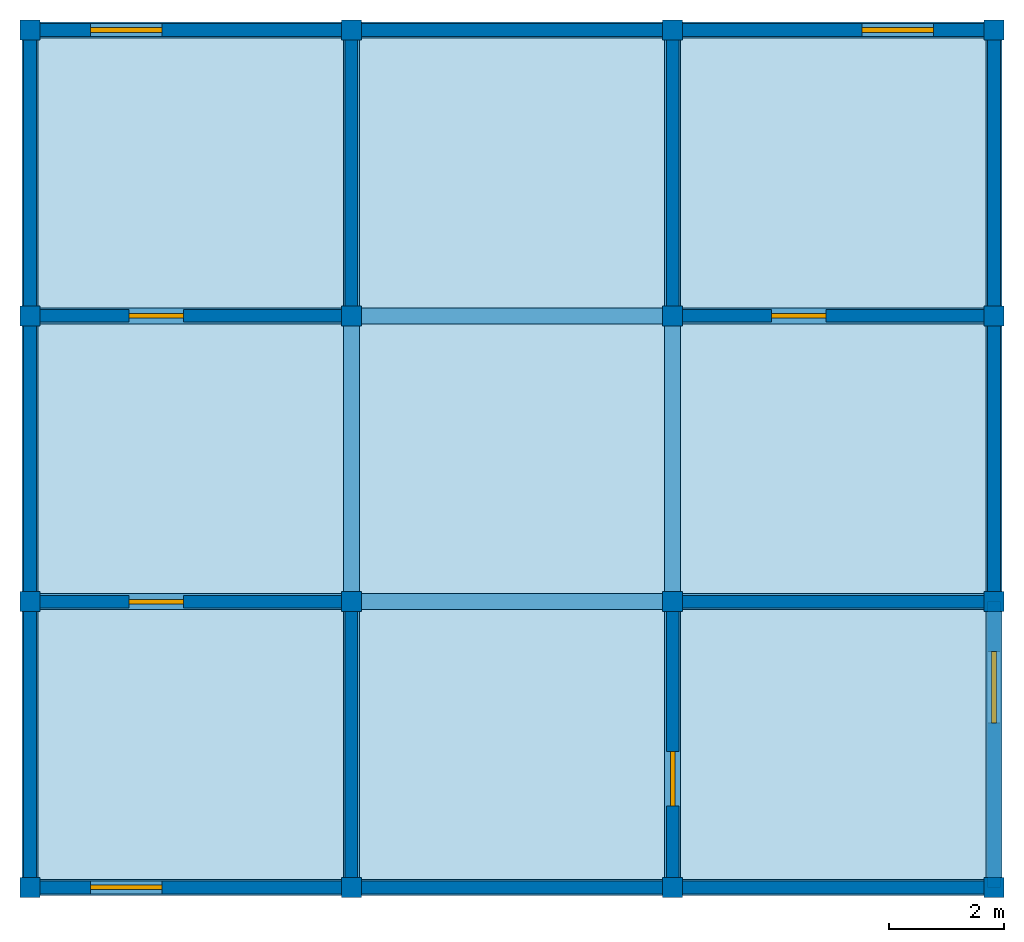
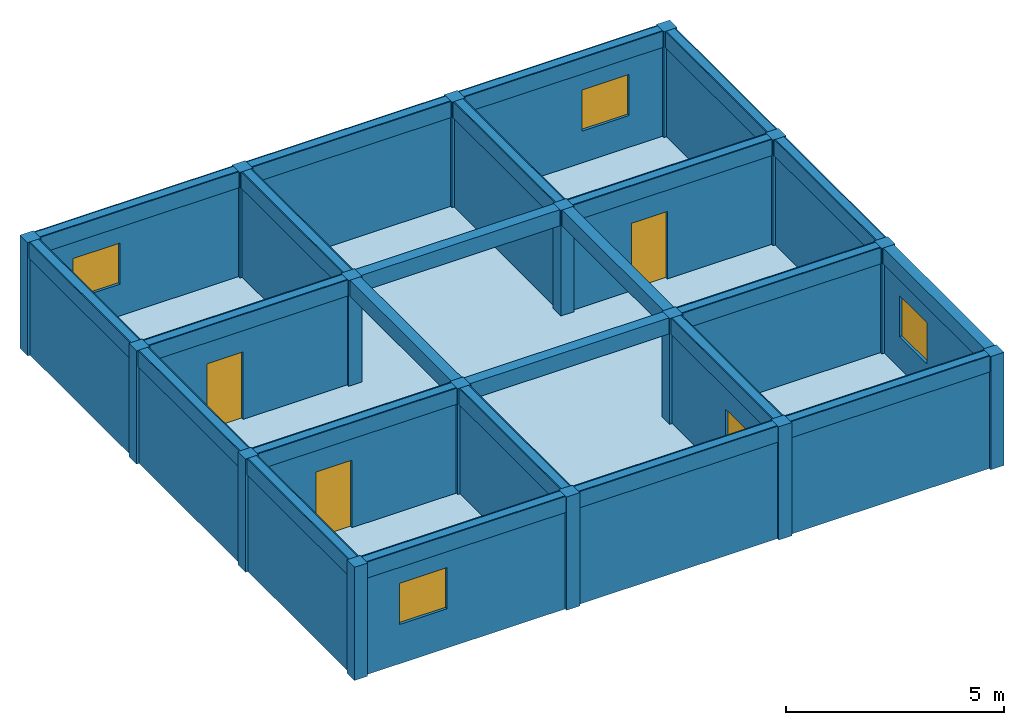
# One storey: 24 beams, 20 walls, 16 columns, 4 doors, 4 windows, 1 slab, 8 openings.
"""IFC4X3 building model written with IfcOpenShell, lengths in metres."""

from ifc_helpers import new_model, si_unit, frame, origin_with_axes, origin_2d, place, context, project, spatial, rectangle, extrude, material, element, fill, save


model = new_model("IFC4X3")

# Units and contexts
model_context = context("Model", 3, precision=1e-05, world=origin_with_axes())
ifc_project = project(units=[si_unit("LENGTHUNIT", "METRE"), si_unit("AREAUNIT", "SQUARE_METRE"), si_unit("VOLUMEUNIT", "CUBIC_METRE")], contexts=[model_context])

# Site, building, storey
site = spatial("IfcSite", under=ifc_project, Name="Puerto Montt Parcel", CompositionType="ELEMENT")
building = spatial("IfcBuilding", under=site, Name="Apex Hub", CompositionType="ELEMENT")
storey = spatial("IfcBuildingStorey", under=building, Name="Level 6", CompositionType="ELEMENT", Elevation=15.83)

# Columns
ifc_material_1 = material(Name="Timber")
column_1_placement = place(None, frame((-8.415, -7.485, 15.836), z_axis=(0.0, 0.0, 1.0), x_axis=(1.0, 0.0, 0.0)))
element("IfcColumn", 1, at=column_1_placement, inside=storey, material=ifc_material_1, Name="Column 6.1", ObjectType="Structural Column", PredefinedType="PILASTER", context=model_context, shape_type="SweptSolid", body=[
    extrude(rectangle(XDim=0.35, YDim=0.35, at=origin_2d()), origin_with_axes(), (0.0, 0.0, 1.0), 3.167),
])
column_2_placement = place(None, frame((-8.415, -2.495, 15.836), z_axis=(0.0, 0.0, 1.0), x_axis=(1.0, 0.0, 0.0)))
element("IfcColumn", 2, at=column_2_placement, inside=storey, material=ifc_material_1, Name="Column 6.2", ObjectType="Facade Column", PredefinedType="USERDEFINED", context=model_context, shape_type="SweptSolid", body=[
    extrude(rectangle(XDim=0.35, YDim=0.35, at=origin_2d()), origin_with_axes(), (0.0, 0.0, 1.0), 3.167),
])
column_3_placement = place(None, frame((-8.415, 2.495, 15.836), z_axis=(0.0, 0.0, 1.0), x_axis=(1.0, 0.0, 0.0)))
element("IfcColumn", 3, at=column_3_placement, inside=storey, material=ifc_material_1, Name="Column 6.3", ObjectType="Facade Column", PredefinedType="COLUMN", context=model_context, shape_type="SweptSolid", body=[
    extrude(rectangle(XDim=0.35, YDim=0.35, at=origin_2d()), origin_with_axes(), (0.0, 0.0, 1.0), 3.167),
])
column_4_placement = place(None, frame((-8.415, 7.485, 15.836), z_axis=(0.0, 0.0, 1.0), x_axis=(1.0, 0.0, 0.0)))
element("IfcColumn", 4, at=column_4_placement, inside=storey, material=ifc_material_1, Name="Column 6.4", ObjectType="Core Column", PredefinedType="NOTDEFINED", context=model_context, shape_type="SweptSolid", body=[
    extrude(rectangle(XDim=0.35, YDim=0.35, at=origin_2d()), origin_with_axes(), (0.0, 0.0, 1.0), 3.167),
])
column_5_placement = place(None, frame((-2.805, -7.485, 15.836), z_axis=(0.0, 0.0, 1.0), x_axis=(1.0, 0.0, 0.0)))
element("IfcColumn", 5, at=column_5_placement, inside=storey, material=ifc_material_1, Name="Column 6.5", ObjectType="Core Column", PredefinedType="PILASTER", context=model_context, shape_type="SweptSolid", body=[
    extrude(rectangle(XDim=0.35, YDim=0.35, at=origin_2d()), origin_with_axes(), (0.0, 0.0, 1.0), 3.167),
])
column_6_placement = place(None, frame((-2.805, -2.495, 15.836), z_axis=(0.0, 0.0, 1.0), x_axis=(1.0, 0.0, 0.0)))
element("IfcColumn", 6, at=column_6_placement, inside=storey, material=ifc_material_1, Name="Column 6.6", ObjectType="Structural Column", PredefinedType="PILASTER", context=model_context, shape_type="SweptSolid", body=[
    extrude(rectangle(XDim=0.35, YDim=0.35, at=origin_2d()), origin_with_axes(), (0.0, 0.0, 1.0), 3.167),
])
column_7_placement = place(None, frame((-2.805, 2.495, 15.836), z_axis=(0.0, 0.0, 1.0), x_axis=(1.0, 0.0, 0.0)))
element("IfcColumn", 7, at=column_7_placement, inside=storey, material=ifc_material_1, Name="Column 6.7", ObjectType="Structural Column", PredefinedType="NOTDEFINED", context=model_context, shape_type="SweptSolid", body=[
    extrude(rectangle(XDim=0.35, YDim=0.35, at=origin_2d()), origin_with_axes(), (0.0, 0.0, 1.0), 3.167),
])
column_8_placement = place(None, frame((-2.805, 7.485, 15.836), z_axis=(0.0, 0.0, 1.0), x_axis=(1.0, 0.0, 0.0)))
element("IfcColumn", 8, at=column_8_placement, inside=storey, material=ifc_material_1, Name="Column 6.8", ObjectType="Facade Column", PredefinedType="PILASTER", context=model_context, shape_type="SweptSolid", body=[
    extrude(rectangle(XDim=0.35, YDim=0.35, at=origin_2d()), origin_with_axes(), (0.0, 0.0, 1.0), 3.167),
])
column_9_placement = place(None, frame((2.805, -7.485, 15.836), z_axis=(0.0, 0.0, 1.0), x_axis=(1.0, 0.0, 0.0)))
element("IfcColumn", 9, at=column_9_placement, inside=storey, material=ifc_material_1, Name="Column 6.9", ObjectType="Structural Column", PredefinedType="PILASTER", context=model_context, shape_type="SweptSolid", body=[
    extrude(rectangle(XDim=0.35, YDim=0.35, at=origin_2d()), origin_with_axes(), (0.0, 0.0, 1.0), 3.167),
])
column_10_placement = place(None, frame((2.805, -2.495, 15.836), z_axis=(0.0, 0.0, 1.0), x_axis=(1.0, 0.0, 0.0)))
element("IfcColumn", 10, at=column_10_placement, inside=storey, material=ifc_material_1, Name="Column 6.10", ObjectType="Structural Column", PredefinedType="COLUMN", context=model_context, shape_type="SweptSolid", body=[
    extrude(rectangle(XDim=0.35, YDim=0.35, at=origin_2d()), origin_with_axes(), (0.0, 0.0, 1.0), 3.167),
])
column_11_placement = place(None, frame((2.805, 2.495, 15.836), z_axis=(0.0, 0.0, 1.0), x_axis=(1.0, 0.0, 0.0)))
element("IfcColumn", 11, at=column_11_placement, inside=storey, material=ifc_material_1, Name="Column 6.11", ObjectType="Facade Column", PredefinedType="USERDEFINED", context=model_context, shape_type="SweptSolid", body=[
    extrude(rectangle(XDim=0.35, YDim=0.35, at=origin_2d()), origin_with_axes(), (0.0, 0.0, 1.0), 3.167),
])
column_12_placement = place(None, frame((2.805, 7.485, 15.836), z_axis=(0.0, 0.0, 1.0), x_axis=(1.0, 0.0, 0.0)))
element("IfcColumn", 12, at=column_12_placement, inside=storey, material=ifc_material_1, Name="Column 6.12", ObjectType="Structural Column", PredefinedType="COLUMN", context=model_context, shape_type="SweptSolid", body=[
    extrude(rectangle(XDim=0.35, YDim=0.35, at=origin_2d()), origin_with_axes(), (0.0, 0.0, 1.0), 3.167),
])
column_13_placement = place(None, frame((8.415, -7.485, 15.836), z_axis=(0.0, 0.0, 1.0), x_axis=(1.0, 0.0, 0.0)))
element("IfcColumn", 13, at=column_13_placement, inside=storey, material=ifc_material_1, Name="Column 6.13", ObjectType="Facade Column", PredefinedType="PILASTER", context=model_context, shape_type="SweptSolid", body=[
    extrude(rectangle(XDim=0.35, YDim=0.35, at=origin_2d()), origin_with_axes(), (0.0, 0.0, 1.0), 3.167),
])
column_14_placement = place(None, frame((8.415, -2.495, 15.836), z_axis=(0.0, 0.0, 1.0), x_axis=(1.0, 0.0, 0.0)))
element("IfcColumn", 14, at=column_14_placement, inside=storey, material=ifc_material_1, Name="Column 6.14", ObjectType="Corner Column", PredefinedType="PILASTER", context=model_context, shape_type="SweptSolid", body=[
    extrude(rectangle(XDim=0.35, YDim=0.35, at=origin_2d()), origin_with_axes(), (0.0, 0.0, 1.0), 3.167),
])
column_15_placement = place(None, frame((8.415, 2.495, 15.836), z_axis=(0.0, 0.0, 1.0), x_axis=(1.0, 0.0, 0.0)))
element("IfcColumn", 15, at=column_15_placement, inside=storey, material=ifc_material_1, Name="Column 6.15", ObjectType="Structural Column", PredefinedType="NOTDEFINED", context=model_context, shape_type="SweptSolid", body=[
    extrude(rectangle(XDim=0.35, YDim=0.35, at=origin_2d()), origin_with_axes(), (0.0, 0.0, 1.0), 3.167),
])
column_16_placement = place(None, frame((8.415, 7.485, 15.836), z_axis=(0.0, 0.0, 1.0), x_axis=(1.0, 0.0, 0.0)))
element("IfcColumn", 16, at=column_16_placement, inside=storey, material=ifc_material_1, Name="Column 6.16", ObjectType="Core Column", PredefinedType="PILASTER", context=model_context, shape_type="SweptSolid", body=[
    extrude(rectangle(XDim=0.35, YDim=0.35, at=origin_2d()), origin_with_axes(), (0.0, 0.0, 1.0), 3.167),
])

# Beams
ifc_material_2 = material(Name="Concrete")
beam_1_placement = place(None, frame((-5.61, -7.485, 18.553), z_axis=(0.0, 0.0, 1.0), x_axis=(1.0, 0.0, 0.0)))
element("IfcBeam", 17, at=beam_1_placement, inside=storey, material=ifc_material_2, Name="Beam 6.1", ObjectType="Primary Beam", PredefinedType="T_BEAM", context=model_context, shape_type="SweptSolid", body=[
    extrude(rectangle(XDim=5.61, YDim=0.28, at=origin_2d()), origin_with_axes(), (0.0, 0.0, 1.0), 0.45),
])
beam_2_placement = place(None, frame((0.0, -7.485, 18.553), z_axis=(0.0, 0.0, 1.0), x_axis=(1.0, 0.0, 0.0)))
element("IfcBeam", 18, at=beam_2_placement, inside=storey, material=ifc_material_2, Name="Beam 6.2", ObjectType="Transfer Beam", PredefinedType="LINTEL", context=model_context, shape_type="SweptSolid", body=[
    extrude(rectangle(XDim=5.61, YDim=0.28, at=origin_2d()), origin_with_axes(), (0.0, 0.0, 1.0), 0.45),
])
beam_3_placement = place(None, frame((5.61, -7.485, 18.553), z_axis=(0.0, 0.0, 1.0), x_axis=(1.0, 0.0, 0.0)))
element("IfcBeam", 19, at=beam_3_placement, inside=storey, material=ifc_material_2, Name="Beam 6.3", ObjectType="Ridge Beam", PredefinedType="JOIST", context=model_context, shape_type="SweptSolid", body=[
    extrude(rectangle(XDim=5.61, YDim=0.28, at=origin_2d()), origin_with_axes(), (0.0, 0.0, 1.0), 0.45),
])
beam_4_placement = place(None, frame((-5.61, -2.495, 18.553), z_axis=(0.0, 0.0, 1.0), x_axis=(1.0, 0.0, 0.0)))
element("IfcBeam", 20, at=beam_4_placement, inside=storey, material=ifc_material_2, Name="Beam 6.4", ObjectType="Secondary Beam", PredefinedType="NOTDEFINED", context=model_context, shape_type="SweptSolid", body=[
    extrude(rectangle(XDim=5.61, YDim=0.28, at=origin_2d()), origin_with_axes(), (0.0, 0.0, 1.0), 0.45),
])
beam_5_placement = place(None, frame((0.0, -2.495, 18.553), z_axis=(0.0, 0.0, 1.0), x_axis=(1.0, 0.0, 0.0)))
element("IfcBeam", 21, at=beam_5_placement, inside=storey, material=ifc_material_2, Name="Beam 6.5", ObjectType="Transfer Beam", PredefinedType="NOTDEFINED", context=model_context, shape_type="SweptSolid", body=[
    extrude(rectangle(XDim=5.61, YDim=0.28, at=origin_2d()), origin_with_axes(), (0.0, 0.0, 1.0), 0.45),
])
beam_6_placement = place(None, frame((5.61, -2.495, 18.553), z_axis=(0.0, 0.0, 1.0), x_axis=(1.0, 0.0, 0.0)))
element("IfcBeam", 22, at=beam_6_placement, inside=storey, material=ifc_material_2, Name="Beam 6.6", ObjectType="Primary Beam", PredefinedType="SPANDREL", context=model_context, shape_type="SweptSolid", body=[
    extrude(rectangle(XDim=5.61, YDim=0.28, at=origin_2d()), origin_with_axes(), (0.0, 0.0, 1.0), 0.45),
])
beam_7_placement = place(None, frame((-5.61, 2.495, 18.553), z_axis=(0.0, 0.0, 1.0), x_axis=(1.0, 0.0, 0.0)))
element("IfcBeam", 23, at=beam_7_placement, inside=storey, material=ifc_material_2, Name="Beam 6.7", ObjectType="Ridge Beam", PredefinedType="HOLLOWCORE", context=model_context, shape_type="SweptSolid", body=[
    extrude(rectangle(XDim=5.61, YDim=0.28, at=origin_2d()), origin_with_axes(), (0.0, 0.0, 1.0), 0.45),
])
beam_8_placement = place(None, frame((0.0, 2.495, 18.553), z_axis=(0.0, 0.0, 1.0), x_axis=(1.0, 0.0, 0.0)))
element("IfcBeam", 24, at=beam_8_placement, inside=storey, material=ifc_material_2, Name="Beam 6.8", ObjectType="Secondary Beam", PredefinedType="BEAM", context=model_context, shape_type="SweptSolid", body=[
    extrude(rectangle(XDim=5.61, YDim=0.28, at=origin_2d()), origin_with_axes(), (0.0, 0.0, 1.0), 0.45),
])
beam_9_placement = place(None, frame((5.61, 2.495, 18.553), z_axis=(0.0, 0.0, 1.0), x_axis=(1.0, 0.0, 0.0)))
element("IfcBeam", 25, at=beam_9_placement, inside=storey, material=ifc_material_2, Name="Beam 6.9", ObjectType="Ridge Beam", PredefinedType="SPANDREL", context=model_context, shape_type="SweptSolid", body=[
    extrude(rectangle(XDim=5.61, YDim=0.28, at=origin_2d()), origin_with_axes(), (0.0, 0.0, 1.0), 0.45),
])
beam_10_placement = place(None, frame((-5.61, 7.485, 18.553), z_axis=(0.0, 0.0, 1.0), x_axis=(1.0, 0.0, 0.0)))
element("IfcBeam", 26, at=beam_10_placement, inside=storey, material=ifc_material_2, Name="Beam 6.10", ObjectType="Secondary Beam", PredefinedType="LINTEL", context=model_context, shape_type="SweptSolid", body=[
    extrude(rectangle(XDim=5.61, YDim=0.28, at=origin_2d()), origin_with_axes(), (0.0, 0.0, 1.0), 0.45),
])
beam_11_placement = place(None, frame((0.0, 7.485, 18.553), z_axis=(0.0, 0.0, 1.0), x_axis=(1.0, 0.0, 0.0)))
element("IfcBeam", 27, at=beam_11_placement, inside=storey, material=ifc_material_2, Name="Beam 6.11", ObjectType="Secondary Beam", PredefinedType="NOTDEFINED", context=model_context, shape_type="SweptSolid", body=[
    extrude(rectangle(XDim=5.61, YDim=0.28, at=origin_2d()), origin_with_axes(), (0.0, 0.0, 1.0), 0.45),
])
beam_12_placement = place(None, frame((5.61, 7.485, 18.553), z_axis=(0.0, 0.0, 1.0), x_axis=(1.0, 0.0, 0.0)))
element("IfcBeam", 28, at=beam_12_placement, inside=storey, material=ifc_material_2, Name="Beam 6.12", ObjectType="Primary Beam", PredefinedType="NOTDEFINED", context=model_context, shape_type="SweptSolid", body=[
    extrude(rectangle(XDim=5.61, YDim=0.28, at=origin_2d()), origin_with_axes(), (0.0, 0.0, 1.0), 0.45),
])
beam_13_placement = place(None, frame((-8.415, -4.99, 18.553), z_axis=(0.0, 0.0, 1.0), x_axis=(0.0, 1.0, 0.0)))
element("IfcBeam", 29, at=beam_13_placement, inside=storey, material=ifc_material_2, Name="Beam 6.13", ObjectType="Secondary Beam", PredefinedType="NOTDEFINED", context=model_context, shape_type="SweptSolid", body=[
    extrude(rectangle(XDim=4.99, YDim=0.28, at=origin_2d()), origin_with_axes(), (0.0, 0.0, 1.0), 0.45),
])
beam_14_placement = place(None, frame((-8.415, 0.0, 18.553), z_axis=(0.0, 0.0, 1.0), x_axis=(0.0, 1.0, 0.0)))
element("IfcBeam", 30, at=beam_14_placement, inside=storey, material=ifc_material_2, Name="Beam 6.14", ObjectType="Ridge Beam", PredefinedType="SPANDREL", context=model_context, shape_type="SweptSolid", body=[
    extrude(rectangle(XDim=4.99, YDim=0.28, at=origin_2d()), origin_with_axes(), (0.0, 0.0, 1.0), 0.45),
])
beam_15_placement = place(None, frame((-8.415, 4.99, 18.553), z_axis=(0.0, 0.0, 1.0), x_axis=(0.0, 1.0, 0.0)))
element("IfcBeam", 31, at=beam_15_placement, inside=storey, material=ifc_material_2, Name="Beam 6.15", ObjectType="Primary Beam", PredefinedType="USERDEFINED", context=model_context, shape_type="SweptSolid", body=[
    extrude(rectangle(XDim=4.99, YDim=0.28, at=origin_2d()), origin_with_axes(), (0.0, 0.0, 1.0), 0.45),
])
beam_16_placement = place(None, frame((-2.805, -4.99, 18.553), z_axis=(0.0, 0.0, 1.0), x_axis=(0.0, 1.0, 0.0)))
element("IfcBeam", 32, at=beam_16_placement, inside=storey, material=ifc_material_2, Name="Beam 6.16", ObjectType="Primary Beam", PredefinedType="LINTEL", context=model_context, shape_type="SweptSolid", body=[
    extrude(rectangle(XDim=4.99, YDim=0.28, at=origin_2d()), origin_with_axes(), (0.0, 0.0, 1.0), 0.45),
])
beam_17_placement = place(None, frame((-2.805, 0.0, 18.553), z_axis=(0.0, 0.0, 1.0), x_axis=(0.0, 1.0, 0.0)))
element("IfcBeam", 33, at=beam_17_placement, inside=storey, material=ifc_material_2, Name="Beam 6.17", ObjectType="Ridge Beam", PredefinedType="BEAM", context=model_context, shape_type="SweptSolid", body=[
    extrude(rectangle(XDim=4.99, YDim=0.28, at=origin_2d()), origin_with_axes(), (0.0, 0.0, 1.0), 0.45),
])
beam_18_placement = place(None, frame((-2.805, 4.99, 18.553), z_axis=(0.0, 0.0, 1.0), x_axis=(0.0, 1.0, 0.0)))
element("IfcBeam", 34, at=beam_18_placement, inside=storey, material=ifc_material_2, Name="Beam 6.18", ObjectType="Primary Beam", PredefinedType="NOTDEFINED", context=model_context, shape_type="SweptSolid", body=[
    extrude(rectangle(XDim=4.99, YDim=0.28, at=origin_2d()), origin_with_axes(), (0.0, 0.0, 1.0), 0.45),
])
beam_19_placement = place(None, frame((2.805, -4.99, 18.553), z_axis=(0.0, 0.0, 1.0), x_axis=(0.0, 1.0, 0.0)))
element("IfcBeam", 35, at=beam_19_placement, inside=storey, material=ifc_material_2, Name="Beam 6.19", ObjectType="Rafter Beam", PredefinedType="SPANDREL", context=model_context, shape_type="SweptSolid", body=[
    extrude(rectangle(XDim=4.99, YDim=0.28, at=origin_2d()), origin_with_axes(), (0.0, 0.0, 1.0), 0.45),
])
beam_20_placement = place(None, frame((2.805, 0.0, 18.553), z_axis=(0.0, 0.0, 1.0), x_axis=(0.0, 1.0, 0.0)))
element("IfcBeam", 36, at=beam_20_placement, inside=storey, material=ifc_material_2, Name="Beam 6.20", ObjectType="Ridge Beam", PredefinedType="T_BEAM", context=model_context, shape_type="SweptSolid", body=[
    extrude(rectangle(XDim=4.99, YDim=0.28, at=origin_2d()), origin_with_axes(), (0.0, 0.0, 1.0), 0.45),
])
beam_21_placement = place(None, frame((2.805, 4.99, 18.553), z_axis=(0.0, 0.0, 1.0), x_axis=(0.0, 1.0, 0.0)))
element("IfcBeam", 37, at=beam_21_placement, inside=storey, material=ifc_material_2, Name="Beam 6.21", ObjectType="Secondary Beam", PredefinedType="NOTDEFINED", context=model_context, shape_type="SweptSolid", body=[
    extrude(rectangle(XDim=4.99, YDim=0.28, at=origin_2d()), origin_with_axes(), (0.0, 0.0, 1.0), 0.45),
])
beam_22_placement = place(None, frame((8.415, -4.99, 18.553), z_axis=(0.0, 0.0, 1.0), x_axis=(0.0, 1.0, 0.0)))
element("IfcBeam", 38, at=beam_22_placement, inside=storey, material=ifc_material_2, Name="Beam 6.22", ObjectType="Ridge Beam", PredefinedType="JOIST", context=model_context, shape_type="SweptSolid", body=[
    extrude(rectangle(XDim=4.99, YDim=0.28, at=origin_2d()), origin_with_axes(), (0.0, 0.0, 1.0), 0.45),
])
beam_23_placement = place(None, frame((8.415, 0.0, 18.553), z_axis=(0.0, 0.0, 1.0), x_axis=(0.0, 1.0, 0.0)))
element("IfcBeam", 39, at=beam_23_placement, inside=storey, material=ifc_material_2, Name="Beam 6.23", ObjectType="Secondary Beam", PredefinedType="T_BEAM", context=model_context, shape_type="SweptSolid", body=[
    extrude(rectangle(XDim=4.99, YDim=0.28, at=origin_2d()), origin_with_axes(), (0.0, 0.0, 1.0), 0.45),
])
beam_24_placement = place(None, frame((8.415, 4.99, 18.553), z_axis=(0.0, 0.0, 1.0), x_axis=(0.0, 1.0, 0.0)))
element("IfcBeam", 40, at=beam_24_placement, inside=storey, material=ifc_material_2, Name="Beam 6.24", ObjectType="Transfer Beam", PredefinedType="LINTEL", context=model_context, shape_type="SweptSolid", body=[
    extrude(rectangle(XDim=4.99, YDim=0.28, at=origin_2d()), origin_with_axes(), (0.0, 0.0, 1.0), 0.45),
])

# Slab
slab_placement = place(None, frame((0.0, 0.0, 15.83), z_axis=(0.0, 0.0, 1.0), x_axis=(1.0, 0.0, 0.0)))
element("IfcSlab", 41, at=slab_placement, inside=storey, material=ifc_material_1, Name="Slab 6", ObjectType="Floor Slab", PredefinedType="FLOOR", context=model_context, shape_type="SweptSolid", body=[
    extrude(rectangle(XDim=16.83, YDim=14.97, at=origin_2d()), origin_with_axes(), (0.0, 0.0, 1.0), 0.22),
])

# Wall, opening, door
ifc_material_3 = material(Name="Brick")
wall_1_placement = place(None, frame((-5.61, -2.495, 15.836), z_axis=(0.0, 0.0, 1.0), x_axis=(1.0, 0.0, 0.0)))
wall_1 = element("IfcWall", 42, at=wall_1_placement, inside=storey, material=ifc_material_3, Name="Wall 6.1", ObjectType="Corridor Partition", PredefinedType="STANDARD", context=model_context, shape_type="SweptSolid", body=[
    extrude(rectangle(XDim=5.61, YDim=0.222052, at=origin_2d()), origin_with_axes(), (0.0, 0.0, 1.0), 3.167),
])
opening_1_placement = place(None, frame((-6.21, -2.495, 15.836), z_axis=(0.0, 0.0, 1.0), x_axis=(1.0, 0.0, 0.0)))
opening_1 = element("IfcOpeningElement", 43, at=opening_1_placement, cuts=wall_1, Name="Door opening 6.1", ObjectType="Door Opening", PredefinedType="OPENING", context=model_context, shape_type="SweptSolid", body=[
    extrude(rectangle(XDim=0.95, YDim=0.302052, at=origin_2d()), origin_with_axes(), (0.0, 0.0, 1.0), 2.1),
])
door_1_placement = place(None, frame((-6.21, -2.495, 15.836), z_axis=(0.0, 0.0, 1.0), x_axis=(1.0, 0.0, 0.0)))
door_1 = element("IfcDoor", 44, at=door_1_placement, inside=storey, Name="Door 6.1", ObjectType="Entry Door", OverallHeight=2.1, OverallWidth=0.95, context=model_context, shape_type="SweptSolid", body=[
    extrude(rectangle(XDim=0.95, YDim=0.08, at=origin_2d()), origin_with_axes(), (0.0, 0.0, 1.0), 2.1),
])
fill(opening_1, door_1)

# Wall
wall_2_placement = place(None, frame((-2.805, -4.99, 15.836), z_axis=(0.0, 0.0, 1.0), x_axis=(0.0, 1.0, 0.0)))
element("IfcWall", 45, at=wall_2_placement, inside=storey, material=ifc_material_3, Name="Wall 6.2", ObjectType="Corridor Partition", PredefinedType="MOVABLE", context=model_context, shape_type="SweptSolid", body=[
    extrude(rectangle(XDim=4.99, YDim=0.222052, at=origin_2d()), origin_with_axes(), (0.0, 0.0, 1.0), 3.167),
])

# Wall, opening, window
ifc_material_4 = material(Name="CLT")
wall_3_placement = place(None, frame((-5.61, -7.485, 15.836), z_axis=(0.0, 0.0, 1.0), x_axis=(1.0, 0.0, 0.0)))
wall_3 = element("IfcWall", 46, at=wall_3_placement, inside=storey, material=ifc_material_4, Name="Wall 6.3", ObjectType="Exterior Wall", PredefinedType="STANDARD", context=model_context, shape_type="SweptSolid", body=[
    extrude(rectangle(XDim=5.61, YDim=0.222052, at=origin_2d()), origin_with_axes(), (0.0, 0.0, 1.0), 3.167),
])
opening_2_placement = place(None, frame((-6.732, -7.485, 16.936), z_axis=(0.0, 0.0, 1.0), x_axis=(1.0, 0.0, 0.0)))
opening_2 = element("IfcOpeningElement", 47, at=opening_2_placement, cuts=wall_3, Name="Window opening 6.2", ObjectType="Window Opening", PredefinedType="OPENING", context=model_context, shape_type="SweptSolid", body=[
    extrude(rectangle(XDim=1.25, YDim=0.302052, at=origin_2d()), origin_with_axes(), (0.0, 0.0, 1.0), 1.15),
])
window_1_placement = place(None, frame((-6.732, -7.485, 16.936), z_axis=(0.0, 0.0, 1.0), x_axis=(1.0, 0.0, 0.0)))
window_1 = element("IfcWindow", 48, at=window_1_placement, inside=storey, Name="Window 6.2", ObjectType="Operable Window", OverallHeight=1.15, OverallWidth=1.25, context=model_context, shape_type="SweptSolid", body=[
    extrude(rectangle(XDim=1.25, YDim=0.08, at=origin_2d()), origin_with_axes(), (0.0, 0.0, 1.0), 1.15),
])
fill(opening_2, window_1)

# Wall
ifc_material_5 = material(Name="Gypsum")
wall_4_placement = place(None, frame((-8.415, -4.99, 15.836), z_axis=(0.0, 0.0, 1.0), x_axis=(0.0, 1.0, 0.0)))
element("IfcWall", 49, at=wall_4_placement, inside=storey, material=ifc_material_5, Name="Wall 6.4", ObjectType="Exterior Wall", PredefinedType="MOVABLE", context=model_context, shape_type="SweptSolid", body=[
    extrude(rectangle(XDim=4.99, YDim=0.222052, at=origin_2d()), origin_with_axes(), (0.0, 0.0, 1.0), 3.167),
])

# Wall, opening, door
wall_5_placement = place(None, frame((2.805, -4.99, 15.836), z_axis=(0.0, 0.0, 1.0), x_axis=(0.0, 1.0, 0.0)))
wall_5 = element("IfcWall", 50, at=wall_5_placement, inside=storey, material=ifc_material_5, Name="Wall 6.5", ObjectType="Corridor Partition", PredefinedType="SOLIDWALL", context=model_context, shape_type="SweptSolid", body=[
    extrude(rectangle(XDim=4.99, YDim=0.222052, at=origin_2d()), origin_with_axes(), (0.0, 0.0, 1.0), 3.167),
])
opening_3_placement = place(None, frame((2.805, -5.59, 15.836), z_axis=(0.0, 0.0, 1.0), x_axis=(0.0, 1.0, 0.0)))
opening_3 = element("IfcOpeningElement", 51, at=opening_3_placement, cuts=wall_5, Name="Door opening 6.3", ObjectType="Door Opening", PredefinedType="OPENING", context=model_context, shape_type="SweptSolid", body=[
    extrude(rectangle(XDim=0.95, YDim=0.302052, at=origin_2d()), origin_with_axes(), (0.0, 0.0, 1.0), 2.1),
])
door_2_placement = place(None, frame((2.805, -5.59, 15.836), z_axis=(0.0, 0.0, 1.0), x_axis=(0.0, 1.0, 0.0)))
door_2 = element("IfcDoor", 52, at=door_2_placement, inside=storey, Name="Door 6.3", ObjectType="Entry Door", OverallHeight=2.1, OverallWidth=0.95, context=model_context, shape_type="SweptSolid", body=[
    extrude(rectangle(XDim=0.95, YDim=0.08, at=origin_2d()), origin_with_axes(), (0.0, 0.0, 1.0), 2.1),
])
fill(opening_3, door_2)

# Walls
wall_6_placement = place(None, frame((0.0, -7.485, 15.836), z_axis=(0.0, 0.0, 1.0), x_axis=(1.0, 0.0, 0.0)))
element("IfcWall", 53, at=wall_6_placement, inside=storey, material=ifc_material_5, Name="Wall 6.6", ObjectType="Exterior Wall", PredefinedType="PARAPET", context=model_context, shape_type="SweptSolid", body=[
    extrude(rectangle(XDim=5.61, YDim=0.222052, at=origin_2d()), origin_with_axes(), (0.0, 0.0, 1.0), 3.167),
])
wall_7_placement = place(None, frame((5.61, -2.495, 15.836), z_axis=(0.0, 0.0, 1.0), x_axis=(1.0, 0.0, 0.0)))
element("IfcWall", 54, at=wall_7_placement, inside=storey, material=ifc_material_3, Name="Wall 6.7", ObjectType="Corridor Partition", PredefinedType="NOTDEFINED", context=model_context, shape_type="SweptSolid", body=[
    extrude(rectangle(XDim=5.61, YDim=0.222052, at=origin_2d()), origin_with_axes(), (0.0, 0.0, 1.0), 3.167),
])

# Wall, opening, window
wall_8_placement = place(None, frame((8.415, -4.99, 15.836), z_axis=(0.0, 0.0, 1.0), x_axis=(0.0, 1.0, 0.0)))
wall_8 = element("IfcWall", 55, at=wall_8_placement, inside=storey, material=ifc_material_5, Name="Wall 6.8", ObjectType="Exterior Wall", PredefinedType="ELEMENTEDWALL", context=model_context, shape_type="SweptSolid", body=[
    extrude(rectangle(XDim=4.99, YDim=0.222052, at=origin_2d()), origin_with_axes(), (0.0, 0.0, 1.0), 3.167),
])
opening_4_placement = place(None, frame((8.415, -3.992, 16.936), z_axis=(0.0, 0.0, 1.0), x_axis=(0.0, 1.0, 0.0)))
opening_4 = element("IfcOpeningElement", 56, at=opening_4_placement, cuts=wall_8, Name="Window opening 6.4", ObjectType="Window Opening", PredefinedType="OPENING", context=model_context, shape_type="SweptSolid", body=[
    extrude(rectangle(XDim=1.25, YDim=0.302052, at=origin_2d()), origin_with_axes(), (0.0, 0.0, 1.0), 1.15),
])
window_2_placement = place(None, frame((8.415, -3.992, 16.936), z_axis=(0.0, 0.0, 1.0), x_axis=(0.0, 1.0, 0.0)))
window_2 = element("IfcWindow", 57, at=window_2_placement, inside=storey, Name="Window 6.4", ObjectType="Fixed Window", OverallHeight=1.15, OverallWidth=1.25, context=model_context, shape_type="SweptSolid", body=[
    extrude(rectangle(XDim=1.25, YDim=0.08, at=origin_2d()), origin_with_axes(), (0.0, 0.0, 1.0), 1.15),
])
fill(opening_4, window_2)

# Wall
wall_9_placement = place(None, frame((5.61, -7.485, 15.836), z_axis=(0.0, 0.0, 1.0), x_axis=(1.0, 0.0, 0.0)))
element("IfcWall", 58, at=wall_9_placement, inside=storey, material=ifc_material_4, Name="Wall 6.9", ObjectType="Exterior Wall", PredefinedType="PLUMBINGWALL", context=model_context, shape_type="SweptSolid", body=[
    extrude(rectangle(XDim=5.61, YDim=0.222052, at=origin_2d()), origin_with_axes(), (0.0, 0.0, 1.0), 3.167),
])

# Wall, opening, door
wall_10_placement = place(None, frame((-5.61, 2.495, 15.836), z_axis=(0.0, 0.0, 1.0), x_axis=(1.0, 0.0, 0.0)))
wall_10 = element("IfcWall", 59, at=wall_10_placement, inside=storey, material=ifc_material_3, Name="Wall 6.10", ObjectType="Corridor Partition", PredefinedType="NOTDEFINED", context=model_context, shape_type="SweptSolid", body=[
    extrude(rectangle(XDim=5.61, YDim=0.222052, at=origin_2d()), origin_with_axes(), (0.0, 0.0, 1.0), 3.167),
])
opening_5_placement = place(None, frame((-6.21, 2.495, 15.836), z_axis=(0.0, 0.0, 1.0), x_axis=(1.0, 0.0, 0.0)))
opening_5 = element("IfcOpeningElement", 60, at=opening_5_placement, cuts=wall_10, Name="Door opening 6.5", ObjectType="Door Opening", PredefinedType="OPENING", context=model_context, shape_type="SweptSolid", body=[
    extrude(rectangle(XDim=0.95, YDim=0.302052, at=origin_2d()), origin_with_axes(), (0.0, 0.0, 1.0), 2.1),
])
door_3_placement = place(None, frame((-6.21, 2.495, 15.836), z_axis=(0.0, 0.0, 1.0), x_axis=(1.0, 0.0, 0.0)))
door_3 = element("IfcDoor", 61, at=door_3_placement, inside=storey, Name="Door 6.5", ObjectType="Fire Door", OverallHeight=2.1, OverallWidth=0.95, context=model_context, shape_type="SweptSolid", body=[
    extrude(rectangle(XDim=0.95, YDim=0.08, at=origin_2d()), origin_with_axes(), (0.0, 0.0, 1.0), 2.1),
])
fill(opening_5, door_3)

# Wall
wall_11_placement = place(None, frame((-8.415, 0.0, 15.836), z_axis=(0.0, 0.0, 1.0), x_axis=(0.0, 1.0, 0.0)))
element("IfcWall", 62, at=wall_11_placement, inside=storey, material=ifc_material_3, Name="Wall 6.11", ObjectType="Exterior Wall", PredefinedType="PLUMBINGWALL", context=model_context, shape_type="SweptSolid", body=[
    extrude(rectangle(XDim=4.99, YDim=0.222052, at=origin_2d()), origin_with_axes(), (0.0, 0.0, 1.0), 3.167),
])

# Wall, opening, door
wall_12_placement = place(None, frame((5.61, 2.495, 15.836), z_axis=(0.0, 0.0, 1.0), x_axis=(1.0, 0.0, 0.0)))
wall_12 = element("IfcWall", 63, at=wall_12_placement, inside=storey, material=ifc_material_5, Name="Wall 6.12", ObjectType="Corridor Partition", PredefinedType="USERDEFINED", context=model_context, shape_type="SweptSolid", body=[
    extrude(rectangle(XDim=5.61, YDim=0.222052, at=origin_2d()), origin_with_axes(), (0.0, 0.0, 1.0), 3.167),
])
opening_6_placement = place(None, frame((5.01, 2.495, 15.836), z_axis=(0.0, 0.0, 1.0), x_axis=(1.0, 0.0, 0.0)))
opening_6 = element("IfcOpeningElement", 64, at=opening_6_placement, cuts=wall_12, Name="Door opening 6.7", ObjectType="Door Opening", PredefinedType="OPENING", context=model_context, shape_type="SweptSolid", body=[
    extrude(rectangle(XDim=0.95, YDim=0.302052, at=origin_2d()), origin_with_axes(), (0.0, 0.0, 1.0), 2.1),
])
door_4_placement = place(None, frame((5.01, 2.495, 15.836), z_axis=(0.0, 0.0, 1.0), x_axis=(1.0, 0.0, 0.0)))
door_4 = element("IfcDoor", 65, at=door_4_placement, inside=storey, Name="Door 6.7", ObjectType="Interior Door", OverallHeight=2.1, OverallWidth=0.95, context=model_context, shape_type="SweptSolid", body=[
    extrude(rectangle(XDim=0.95, YDim=0.08, at=origin_2d()), origin_with_axes(), (0.0, 0.0, 1.0), 2.1),
])
fill(opening_6, door_4)

# Wall
wall_13_placement = place(None, frame((8.415, 0.0, 15.836), z_axis=(0.0, 0.0, 1.0), x_axis=(0.0, 1.0, 0.0)))
element("IfcWall", 66, at=wall_13_placement, inside=storey, material=ifc_material_5, Name="Wall 6.13", ObjectType="Exterior Wall", PredefinedType="NOTDEFINED", context=model_context, shape_type="SweptSolid", body=[
    extrude(rectangle(XDim=4.99, YDim=0.222052, at=origin_2d()), origin_with_axes(), (0.0, 0.0, 1.0), 3.167),
])

# Wall, opening, window
wall_14_placement = place(None, frame((-5.61, 7.485, 15.836), z_axis=(0.0, 0.0, 1.0), x_axis=(1.0, 0.0, 0.0)))
wall_14 = element("IfcWall", 67, at=wall_14_placement, inside=storey, material=ifc_material_3, Name="Wall 6.14", ObjectType="Exterior Wall", PredefinedType="STANDARD", context=model_context, shape_type="SweptSolid", body=[
    extrude(rectangle(XDim=5.61, YDim=0.222052, at=origin_2d()), origin_with_axes(), (0.0, 0.0, 1.0), 3.167),
])
opening_7_placement = place(None, frame((-6.732, 7.485, 16.936), z_axis=(0.0, 0.0, 1.0), x_axis=(1.0, 0.0, 0.0)))
opening_7 = element("IfcOpeningElement", 68, at=opening_7_placement, cuts=wall_14, Name="Window opening 6.6", ObjectType="Window Opening", PredefinedType="OPENING", context=model_context, shape_type="SweptSolid", body=[
    extrude(rectangle(XDim=1.25, YDim=0.302052, at=origin_2d()), origin_with_axes(), (0.0, 0.0, 1.0), 1.15),
])
window_3_placement = place(None, frame((-6.732, 7.485, 16.936), z_axis=(0.0, 0.0, 1.0), x_axis=(1.0, 0.0, 0.0)))
window_3 = element("IfcWindow", 69, at=window_3_placement, inside=storey, Name="Window 6.6", ObjectType="Louvre Window", OverallHeight=1.15, OverallWidth=1.25, context=model_context, shape_type="SweptSolid", body=[
    extrude(rectangle(XDim=1.25, YDim=0.08, at=origin_2d()), origin_with_axes(), (0.0, 0.0, 1.0), 1.15),
])
fill(opening_7, window_3)

# Walls
wall_15_placement = place(None, frame((-2.805, 4.99, 15.836), z_axis=(0.0, 0.0, 1.0), x_axis=(0.0, 1.0, 0.0)))
element("IfcWall", 70, at=wall_15_placement, inside=storey, material=ifc_material_2, Name="Wall 6.15", ObjectType="Corridor Partition", PredefinedType="POLYGONAL", context=model_context, shape_type="SweptSolid", body=[
    extrude(rectangle(XDim=4.99, YDim=0.222052, at=origin_2d()), origin_with_axes(), (0.0, 0.0, 1.0), 3.167),
])
wall_16_placement = place(None, frame((-8.415, 4.99, 15.836), z_axis=(0.0, 0.0, 1.0), x_axis=(0.0, 1.0, 0.0)))
element("IfcWall", 71, at=wall_16_placement, inside=storey, material=ifc_material_3, Name="Wall 6.16", ObjectType="Exterior Wall", PredefinedType="ELEMENTEDWALL", context=model_context, shape_type="SweptSolid", body=[
    extrude(rectangle(XDim=4.99, YDim=0.222052, at=origin_2d()), origin_with_axes(), (0.0, 0.0, 1.0), 3.167),
])
wall_17_placement = place(None, frame((0.0, 7.485, 15.836), z_axis=(0.0, 0.0, 1.0), x_axis=(1.0, 0.0, 0.0)))
element("IfcWall", 72, at=wall_17_placement, inside=storey, material=ifc_material_2, Name="Wall 6.17", ObjectType="Exterior Wall", PredefinedType="USERDEFINED", context=model_context, shape_type="SweptSolid", body=[
    extrude(rectangle(XDim=5.61, YDim=0.222052, at=origin_2d()), origin_with_axes(), (0.0, 0.0, 1.0), 3.167),
])
wall_18_placement = place(None, frame((2.805, 4.99, 15.836), z_axis=(0.0, 0.0, 1.0), x_axis=(0.0, 1.0, 0.0)))
element("IfcWall", 73, at=wall_18_placement, inside=storey, material=ifc_material_5, Name="Wall 6.18", ObjectType="Corridor Partition", PredefinedType="SOLIDWALL", context=model_context, shape_type="SweptSolid", body=[
    extrude(rectangle(XDim=4.99, YDim=0.222052, at=origin_2d()), origin_with_axes(), (0.0, 0.0, 1.0), 3.167),
])

# Wall, opening, window
wall_19_placement = place(None, frame((5.61, 7.485, 15.836), z_axis=(0.0, 0.0, 1.0), x_axis=(1.0, 0.0, 0.0)))
wall_19 = element("IfcWall", 74, at=wall_19_placement, inside=storey, material=ifc_material_2, Name="Wall 6.19", ObjectType="Exterior Wall", PredefinedType="PLUMBINGWALL", context=model_context, shape_type="SweptSolid", body=[
    extrude(rectangle(XDim=5.61, YDim=0.222052, at=origin_2d()), origin_with_axes(), (0.0, 0.0, 1.0), 3.167),
])
opening_8_placement = place(None, frame((6.732, 7.485, 16.936), z_axis=(0.0, 0.0, 1.0), x_axis=(1.0, 0.0, 0.0)))
opening_8 = element("IfcOpeningElement", 75, at=opening_8_placement, cuts=wall_19, Name="Window opening 6.8", ObjectType="Window Opening", PredefinedType="OPENING", context=model_context, shape_type="SweptSolid", body=[
    extrude(rectangle(XDim=1.25, YDim=0.302052, at=origin_2d()), origin_with_axes(), (0.0, 0.0, 1.0), 1.15),
])
window_4_placement = place(None, frame((6.732, 7.485, 16.936), z_axis=(0.0, 0.0, 1.0), x_axis=(1.0, 0.0, 0.0)))
window_4 = element("IfcWindow", 76, at=window_4_placement, inside=storey, Name="Window 6.8", ObjectType="Curtain Window", OverallHeight=1.15, OverallWidth=1.25, context=model_context, shape_type="SweptSolid", body=[
    extrude(rectangle(XDim=1.25, YDim=0.08, at=origin_2d()), origin_with_axes(), (0.0, 0.0, 1.0), 1.15),
])
fill(opening_8, window_4)

# Wall
wall_20_placement = place(None, frame((8.415, 4.99, 15.836), z_axis=(0.0, 0.0, 1.0), x_axis=(0.0, 1.0, 0.0)))
element("IfcWall", 77, at=wall_20_placement, inside=storey, material=ifc_material_4, Name="Wall 6.20", ObjectType="Exterior Wall", PredefinedType="NOTDEFINED", context=model_context, shape_type="SweptSolid", body=[
    extrude(rectangle(XDim=4.99, YDim=0.222052, at=origin_2d()), origin_with_axes(), (0.0, 0.0, 1.0), 3.167),
])

save(model, "model.ifc")
